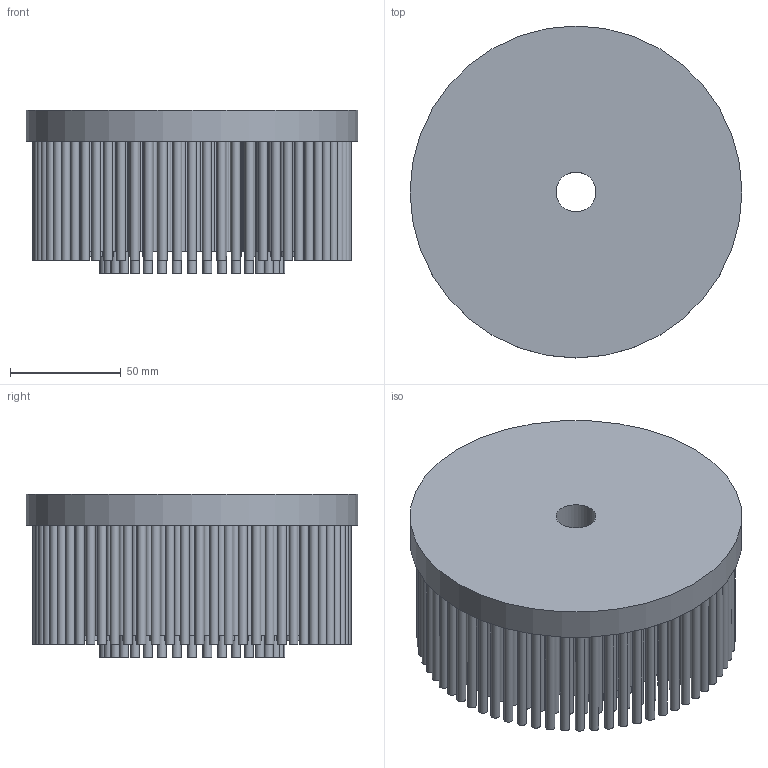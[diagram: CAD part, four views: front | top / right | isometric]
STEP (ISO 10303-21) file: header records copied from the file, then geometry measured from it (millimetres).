
FILE_DESCRIPTION(/* description */ (''),/* implementation_level */ '2;1');
FILE_NAME(/* name */ 'C:/Users/daiwa/Desktop/ナチハマ　　ブラシ v1.step',/* time_stamp */ '2022-01-31T22:44:49+09:00',/* author */ (''),/* organization */ (''),/* preprocessor_version */ 'ST-DEVELOPER v18.1',/* originating_system */ 'Autodesk Translation Framework v10.13.0.1454',/* authorisation */ '');
FILE_SCHEMA (('AUTOMOTIVE_DESIGN { 1 0 10303 214 3 1 1 }'));
Length unit declared in the file: millimetre
Products named in the file (1): ナチハマ　　ブラシ
Bounding box: 150 x 150 x 74 mm (x, y, z)
Volume: 433263.3 mm3; surface area: 235946.2 mm2
Topology: 172 solids, 172 shells, 749 faces, 867 edges, 578 vertices
Faces by surface type: plane 460, cylinder 289
Full cylindrical faces by diameter (mm): 4 x287, 18 x1, 150 x1
Entity records: 14585 total; most frequent: DIRECTION 2945, CARTESIAN_POINT 2195, ORIENTED_EDGE 1734, AXIS2_PLACEMENT_3D 1328, EDGE_LOOP 867, EDGE_CURVE 867, FACE_OUTER_BOUND 749, ADVANCED_FACE 749
